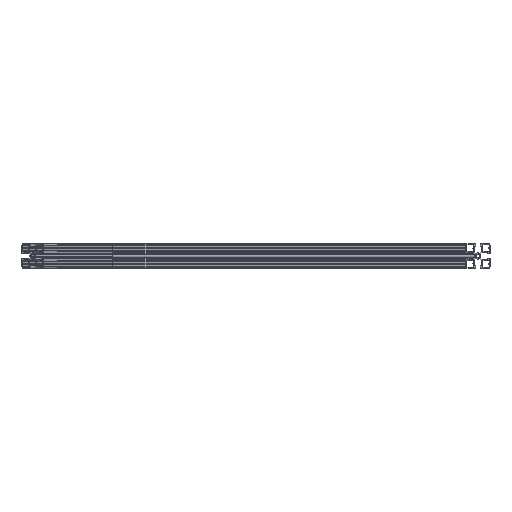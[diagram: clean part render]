
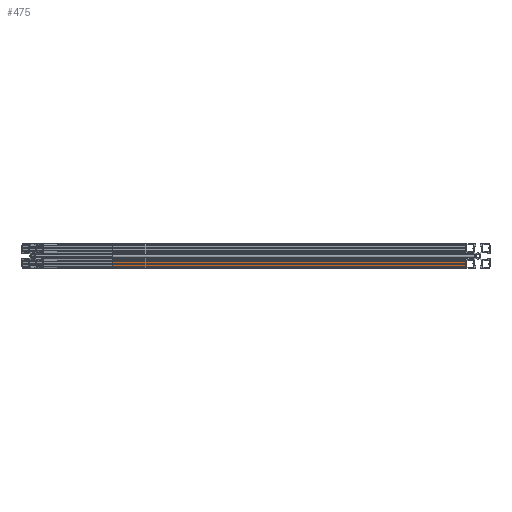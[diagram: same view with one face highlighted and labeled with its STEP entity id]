
A CAD part, left-side view. The second image highlights one B-rep face of the part: STEP entity #475.
In plain terms, the highlighted planar face has unit normal (-1, 0, 0).
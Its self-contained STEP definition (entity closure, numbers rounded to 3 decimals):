
#475 = ADVANCED_FACE ( 'NONE', ( #6180 ), #7299, .F. ) ;
#1435 = EDGE_LOOP ( 'NONE', ( #3749, #3751, #3750, #3752 ) ) ;
#2196 = VERTEX_POINT ( 'NONE', #10826 ) ;
#2232 = VERTEX_POINT ( 'NONE', #10862 ) ;
#2273 = VERTEX_POINT ( 'NONE', #10903 ) ;
#2274 = VERTEX_POINT ( 'NONE', #10904 ) ;
#3749 = ORIENTED_EDGE ( 'NONE', *, *, #4000, .F. ) ;
#3750 = ORIENTED_EDGE ( 'NONE', *, *, #4001, .F. ) ;
#3751 = ORIENTED_EDGE ( 'NONE', *, *, #3999, .F. ) ;
#3752 = ORIENTED_EDGE ( 'NONE', *, *, #3996, .T. ) ;
#3996 = EDGE_CURVE ( 'NONE', #2274, #2196, #9619, .T. ) ;
#3999 = EDGE_CURVE ( 'NONE', #2232, #2273, #9620, .T. ) ;
#4000 = EDGE_CURVE ( 'NONE', #2273, #2196, #9621, .T. ) ;
#4001 = EDGE_CURVE ( 'NONE', #2274, #2232, #9622, .T. ) ;
#6180 = FACE_OUTER_BOUND ( 'NONE', #1435, .T. ) ;
#7299 = PLANE ( 'NONE',  #7688 ) ;
#7300 = CARTESIAN_POINT ( 'NONE',  ( 170., 672.5, -20. ) ) ;
#7301 = DIRECTION ( 'NONE',  ( 1., 0., 0. ) ) ;
#7302 = DIRECTION ( 'NONE',  ( 0., 0., -1. ) ) ;
#7688 = AXIS2_PLACEMENT_3D ( 'NONE', #7300, #7301, #7302 ) ;
#9619 = LINE ( 'NONE', #11965, #10106 ) ;
#9620 = LINE ( 'NONE', #11973, #10110 ) ;
#9621 = LINE ( 'NONE', #11975, #10111 ) ;
#9622 = LINE ( 'NONE', #11977, #10112 ) ;
#10106 = VECTOR ( 'NONE', #11966, 1000. ) ;
#10110 = VECTOR ( 'NONE', #11974, 1000. ) ;
#10111 = VECTOR ( 'NONE', #11976, 1000. ) ;
#10112 = VECTOR ( 'NONE', #11978, 1000. ) ;
#10826 = CARTESIAN_POINT ( 'NONE',  ( 170., 22.5, -20. ) ) ;
#10862 = CARTESIAN_POINT ( 'NONE',  ( 170., 672.5, -4.15 ) ) ;
#10903 = CARTESIAN_POINT ( 'NONE',  ( 170., 22.5, -4.15 ) ) ;
#10904 = CARTESIAN_POINT ( 'NONE',  ( 170., 672.5, -20. ) ) ;
#11965 = CARTESIAN_POINT ( 'NONE',  ( 170., 672.5, -20. ) ) ;
#11966 = DIRECTION ( 'NONE',  ( 0., -1., 0. ) ) ;
#11973 = CARTESIAN_POINT ( 'NONE',  ( 170., 672.5, -4.15 ) ) ;
#11974 = DIRECTION ( 'NONE',  ( 0., -1., 0. ) ) ;
#11975 = CARTESIAN_POINT ( 'NONE',  ( 170., 22.5, -20. ) ) ;
#11976 = DIRECTION ( 'NONE',  ( 0., 0., -1. ) ) ;
#11977 = CARTESIAN_POINT ( 'NONE',  ( 170., 672.5, -20. ) ) ;
#11978 = DIRECTION ( 'NONE',  ( 0., 0., 1. ) ) ;
